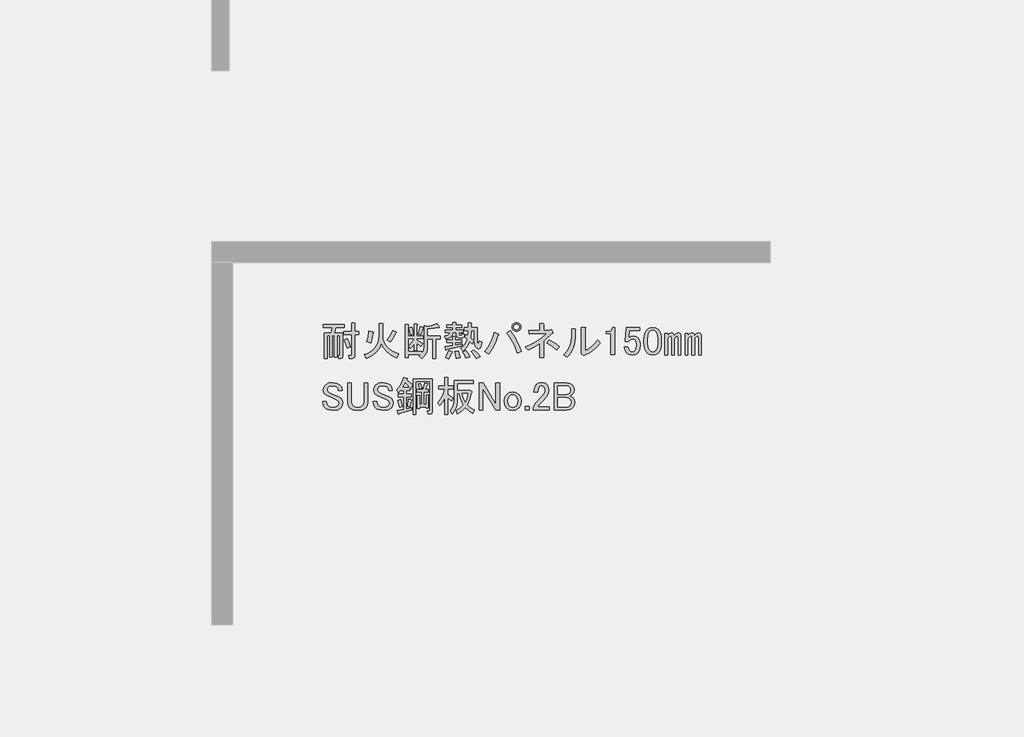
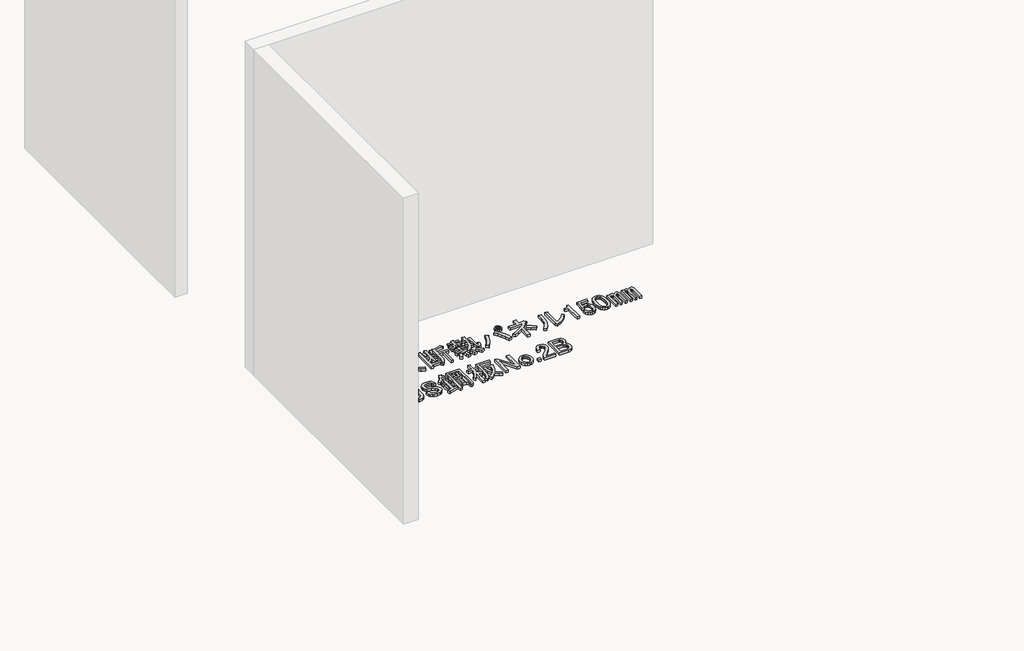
# One storey, part 112 of 117: 1 proxy.
"""IFC4 building model written with IfcOpenShell, lengths in millimetres."""

import ifcopenshell
import ifcopenshell.guid

model = None  # the IFC model being written
_history = None  # IfcOwnerHistory: only IFC2X3 demands one
_inside = {}  # id of a spatial element -> (the spatial element, [elements in it])
_under = {}  # id of a project, library or spatial element -> (it, [spatial elements below it])
_declared = {}  # id of a project -> (the project, [libraries it declares])
_typed = {}  # id of a type object -> (the type object, [elements of that type])
_made_of = {}  # id of a material, layer set ... -> (it, [elements and type objects made of it])


def new_model(schema):
    """Start an empty IFC model of exactly this schema.

    Asked for "IFC4X3", IfcOpenShell would pick the latest addendum, in which some entities
    have other attributes; the version numbers below select the first issue.
    IFC2X3 requires an IfcOwnerHistory on every rooted entity: one is made here for all.
    """
    global model, _history
    if schema == "IFC4X3":
        model = ifcopenshell.file(schema_version=(4, 3, 0, 0))
    else:
        model = ifcopenshell.file(schema=schema)
    _inside.clear()
    _under.clear()
    _declared.clear()
    _typed.clear()
    _made_of.clear()
    _history = None
    if model.schema == "IFC2X3":
        org = make("IfcOrganization", Name="unknown")
        user = make(
            "IfcPersonAndOrganization",
            ThePerson=make("IfcPerson", FamilyName="unknown"),
            TheOrganization=org,
        )
        app = make(
            "IfcApplication",
            ApplicationDeveloper=org,
            Version="unknown",
            ApplicationFullName="unknown",
            ApplicationIdentifier="unknown",
        )
        _history = make(
            "IfcOwnerHistory",
            OwningUser=user,
            OwningApplication=app,
            ChangeAction="ADDED",
            CreationDate=0,
        )
    return model


def make(cls, **values):
    """One entity of the class cls with the attributes given. An attribute that is None is left unset."""
    return model.create_entity(
        cls, **{name: value for name, value in values.items() if value is not None}
    )


def rooted(cls, **values):
    """An entity with a GlobalId (a new one), such as an element, a storey or a relation."""
    return make(cls, GlobalId=ifcopenshell.guid.new(), OwnerHistory=_history, **values)


def si_unit(unit_type, name, prefix=None):
    """IfcSIUnit, for example si_unit("LENGTHUNIT", "METRE", prefix="MILLI")."""
    return make("IfcSIUnit", UnitType=unit_type, Prefix=prefix, Name=name)


def assignment(units):
    """IfcUnitAssignment: the units of a project."""
    return None if units is None else make("IfcUnitAssignment", Units=units)


def point(xyz):
    """IfcCartesianPoint."""
    return None if xyz is None else make("IfcCartesianPoint", Coordinates=xyz)


def direction(xyz):
    """IfcDirection."""
    return None if xyz is None else make("IfcDirection", DirectionRatios=xyz)


def frame(location, z_axis=None, x_axis=None):
    """IfcAxis2Placement3D, a coordinate frame: its origin and axes. An axis left out is left unset."""
    return make(
        "IfcAxis2Placement3D",
        Location=point(location),
        Axis=direction(z_axis),
        RefDirection=direction(x_axis),
    )


def origin():
    """The frame at (0, 0, 0) with its axes left unset."""
    return frame((0.0, 0.0, 0.0))


def place(relative_to, where):
    """IfcLocalPlacement: puts the frame where relative to a parent placement (None: the world)."""
    return make(
        "IfcLocalPlacement", PlacementRelTo=relative_to, RelativePlacement=where
    )


def context(
    kind, dimensions, precision=None, world=None, true_north=None, identifier=None
):
    """IfcGeometricRepresentationContext, for example the 3D "Model" context."""
    return make(
        "IfcGeometricRepresentationContext",
        ContextIdentifier=identifier,
        ContextType=kind,
        CoordinateSpaceDimension=dimensions,
        Precision=precision,
        WorldCoordinateSystem=world,
        TrueNorth=true_north,
    )


def project(units=None, contexts=None):
    """IfcProject with its units and contexts."""
    return rooted(
        "IfcProject",
        Name="project",
        RepresentationContexts=contexts,
        UnitsInContext=assignment(units),
    )


def spatial(cls, under=None, at=None, **own):
    """A site, building, storey or space (cls), placed at a placement, below another one or the project."""
    s = rooted(cls, ObjectPlacement=at, **own)
    if under is not None:
        _under.setdefault(under.id(), (under, []))[1].append(s)
    return s


def polyline(points):
    """IfcPolyline through the points."""
    return make("IfcPolyline", Points=[point(p) for p in points])


def outline(outer, holes=None, kind="AREA"):
    """IfcArbitraryClosedProfileDef: a profile drawn as a closed curve; with holes, ...WithVoids."""
    if holes is None:
        return make("IfcArbitraryClosedProfileDef", ProfileType=kind, OuterCurve=outer)
    return make(
        "IfcArbitraryProfileDefWithVoids",
        ProfileType=kind,
        OuterCurve=outer,
        InnerCurves=holes,
    )


def extrude(swept, where, along, depth):
    """IfcExtrudedAreaSolid: the profile swept, set in the frame where, extruded along a direction by depth."""
    return make(
        "IfcExtrudedAreaSolid",
        SweptArea=swept,
        Position=where,
        ExtrudedDirection=direction(along),
        Depth=depth,
    )


def shape(context_of_items, identifier, shape_type, items):
    """IfcShapeRepresentation: the items that make up one representation, for example the "Body"."""
    return make(
        "IfcShapeRepresentation",
        ContextOfItems=context_of_items,
        RepresentationIdentifier=identifier,
        RepresentationType=shape_type,
        Items=items,
    )


def made_of(thing, what):
    """Note that an element or type object is made of a material, layer set ...; save() writes the relation."""
    if what is not None:
        _made_of.setdefault(what.id(), (what, []))[1].append(thing)
    return thing


def element(
    cls,
    number,
    at=None,
    inside=None,
    cuts=None,
    type_object=None,
    material=None,
    context=None,
    identifier="Body",
    shape_type=None,
    held_by="IfcProductDefinitionShape",
    body=None,
    shapes=None,
    **own,
):
    """One element of the class cls, such as IfcWall. Its Tag is "e" and its number.

    at: its placement. inside: the storey or other place that contains it. cuts: it is an
    opening in that element (IfcRelVoidsElement). A single representation is given by context,
    identifier, shape_type and body (its items); several are given by shapes. held_by: the class
    of the entity that holds the representations. save() writes the other relations.
    """
    e = rooted(cls, Tag="e%d" % number, ObjectPlacement=at, **own)
    if body is not None:
        shapes = [shape(context, identifier, shape_type, body)]
    if shapes is not None:
        e.Representation = make(held_by, Representations=shapes)
    if inside is not None:
        _inside.setdefault(inside.id(), (inside, []))[1].append(e)
    if cuts is not None:
        rooted(
            "IfcRelVoidsElement", RelatingBuildingElement=cuts, RelatedOpeningElement=e
        )
    if type_object is not None:
        _typed.setdefault(type_object.id(), (type_object, []))[1].append(e)
    return made_of(e, material)


def aggregate(whole, parts):
    """IfcRelAggregates: a whole, such as a stair, and the parts it consists of."""
    return rooted("IfcRelAggregates", RelatingObject=whole, RelatedObjects=parts)


def save(model, path):
    """Write the relations noted so far, then the file.

    IfcRelAggregates (storeys below a building ...), IfcRelContainedInSpatialStructure (elements
    in a storey), IfcRelDefinesByType, IfcRelAssociatesMaterial and IfcRelDeclares: one each for
    every whole, place, type object, material and project.
    """
    for whole, parts in _under.values():
        aggregate(whole, parts)
    for where, things in _inside.values():
        rooted(
            "IfcRelContainedInSpatialStructure",
            RelatedElements=things,
            RelatingStructure=where,
        )
    for kind, things in _typed.values():
        rooted("IfcRelDefinesByType", RelatedObjects=things, RelatingType=kind)
    for what, things in _made_of.values():
        rooted("IfcRelAssociatesMaterial", RelatedObjects=things, RelatingMaterial=what)
    for by, libraries in _declared.values():
        rooted("IfcRelDeclares", RelatingContext=by, RelatedDefinitions=libraries)
    model.write(path)


model = new_model("IFC4")

# Units and contexts
model_context = context("Model", 3, world=origin())
ifc_project = project(units=[si_unit("LENGTHUNIT", "METRE", prefix="MILLI")], contexts=[model_context])

# Site, building, storey
site = spatial("IfcSite", under=ifc_project)
building = spatial("IfcBuilding", under=site)
storey = spatial("IfcBuildingStorey", under=building, Name="レベル 1", Elevation=500.0)

# Proxy
placement = place(None, origin())
element("IfcBuildingElementProxy", 1, Name="200㎜\u3000MS Pゴシック", ObjectType="200㎜\u3000MS Pゴシック", at=placement, inside=storey, context=model_context, shape_type="SweptSolid", body=[
    extrude(outline(polyline([(64978.5674486, 3229.3142262), (64971.0959694, 3259.7748726), (64960.176115, 3289.0860605), (64982.0158237, 3297.132269), (64994.372501, 3267.5337164), (65001.5566157, 3238.5098931), (64978.5674486, 3229.3142262)])), frame((0.0, 0.0, 500.0), z_axis=(0.0, 0.0, 1.0), x_axis=(1.0, 0.0, 0.0)), (0.0, 0.0, 1.0), 25.0),
    extrude(outline(polyline([(64887.7602388, 3320.121436), (64871.6678219, 3320.121436), (64871.6678219, 3164.9445585), (64852.1270299, 3164.9445585), (64852.1270299, 3320.121436), (64833.7356963, 3320.121436), (64833.7356963, 3152.3005167), (64814.1949043, 3152.3005167), (64814.1949043, 3338.5127697), (64865.9205301, 3338.5127697), (64871.6678219, 3377.5943537), (64804.9992375, 3377.5943537), (64804.9992375, 3399.4340623), (64960.176115, 3399.4340623), (64960.176115, 3377.5943537), (64895.8064473, 3377.5943537), (64885.4613221, 3338.5127697), (64946.3826148, 3338.5127697), (64946.3826148, 3170.6918503), (64942.3595106, 3158.6225376), (64930.2901979, 3154.5994334), (64919.9450727, 3154.5994334), (64915.3472393, 3176.439142), (64922.2439894, 3176.439142), (64925.6923645, 3177.5886004), (64926.8418228, 3181.0369755), (64926.8418228, 3320.121436), (64907.3010308, 3320.121436), (64907.3010308, 3164.9445585), (64887.7602388, 3164.9445585), (64887.7602388, 3320.121436)])), frame((0.0, 0.0, 500.0), z_axis=(0.0, 0.0, 1.0), x_axis=(1.0, 0.0, 0.0)), (0.0, 0.0, 1.0), 25.0),
    extrude(outline(polyline([(64956.72774, 3325.8687278), (64956.72774, 3347.7084365), (65013.0511992, 3347.7084365), (65013.0511992, 3409.7791875), (65034.8909079, 3409.7791875), (65039.7761059, 3407.4802708), (65036.0403663, 3402.8824374), (65036.0403663, 3347.7084365), (65064.7768251, 3347.7084365), (65064.7768251, 3325.8687278), (65036.0403663, 3325.8687278), (65036.0403663, 3172.990767), (65031.4425328, 3159.1972668), (65017.6490326, 3154.5994334), (64994.6598656, 3154.5994334), (64991.2114905, 3176.439142), (65008.4533658, 3176.439142), (65011.9017409, 3177.5886004), (65013.0511992, 3181.0369755), (65013.0511992, 3325.8687278), (64956.72774, 3325.8687278)])), frame((0.0, 0.0, 500.0), z_axis=(0.0, 0.0, 1.0), x_axis=(1.0, 0.0, 0.0)), (0.0, 0.0, 1.0), 25.0),
    extrude(outline(polyline([(65226.8504527, 3261.4990601), (65210.9017181, 3226.6561038), (65187.1941395, 3196.8420278), (65155.7277172, 3172.0568321), (65116.5024509, 3152.3005167), (65102.7089507, 3181.0369755), (65128.032955, 3190.71757), (65149.9804254, 3202.5174784), (65168.5513619, 3216.4367006), (65183.7457645, 3232.4752367), (65195.5636332, 3250.6330866), (65204.0049679, 3270.9102504), (65209.0697688, 3293.3067279), (65210.7580358, 3317.8225193), (65210.7580358, 3408.6297292), (65237.1955779, 3406.3308125), (65240.6439529, 3402.8824374), (65237.1955779, 3397.1351456), (65237.1955779, 3317.8225193), (65238.9916065, 3296.377937), (65244.3796926, 3276.2983364), (65253.3598359, 3257.5837176), (65265.9320367, 3240.2340806), (65282.0962947, 3224.2494254), (65301.8526102, 3209.629752), (65352.1414131, 3184.4853505), (65340.6468295, 3155.7488917), (65301.2060398, 3175.2896837), (65269.0930471, 3199.4283091), (65244.3078514, 3228.1647679), (65226.8504527, 3261.4990601)])), frame((0.0, 0.0, 500.0), z_axis=(0.0, 0.0, 1.0), x_axis=(1.0, 0.0, 0.0)), (0.0, 0.0, 1.0), 25.0),
    extrude(outline(polyline([(65330.3017044, 3337.3633113), (65310.1861832, 3297.9943628), (65293.5190371, 3271.8441853), (65270.5298701, 3286.7871438), (65290.3580266, 3318.3972485), (65308.4619957, 3358.0535617), (65333.7500794, 3345.4095198), (65336.3363607, 3341.6737801), (65330.3017044, 3337.3633113)])), frame((0.0, 0.0, 500.0), z_axis=(0.0, 0.0, 1.0), x_axis=(1.0, 0.0, 0.0)), (0.0, 0.0, 1.0), 25.0),
    extrude(outline(polyline([(65122.2497427, 3276.4420187), (65134.0316908, 3310.6384046), (65137.1927012, 3353.4557283), (65165.92916, 3346.5589781), (65170.5269934, 3342.8232385), (65165.92916, 3338.5127697), (65162.1934204, 3304.0290191), (65150.9862015, 3267.2463519), (65122.2497427, 3276.4420187)])), frame((0.0, 0.0, 500.0), z_axis=(0.0, 0.0, 1.0), x_axis=(1.0, 0.0, 0.0)), (0.0, 0.0, 1.0), 25.0),
    extrude(outline(polyline([(65647.5522095, 3381.0427287), (65645.828022, 3376.4448953), (65638.3565427, 3378.743812), (65561.3428331, 3366.0997701), (65561.3428331, 3316.673061), (65653.2995013, 3316.673061), (65653.2995013, 3294.8333523), (65622.2641258, 3294.8333523), (65622.2641258, 3154.5994334), (65599.2749588, 3154.5994334), (65599.2749588, 3294.8333523), (65561.3428331, 3294.8333523), (65561.3428331, 3245.4066432), (65558.7565518, 3217.6041193), (65550.997708, 3192.8189236), (65538.0663015, 3171.051056), (65519.9623325, 3152.3005167), (65502.7204572, 3171.8413086), (65513.0655823, 3181.0369755), (65423.4078309, 3181.0369755), (65423.4078309, 3159.1972668), (65400.4186638, 3159.1972668), (65400.4186638, 3398.284604), (65422.2583725, 3398.284604), (65427.1435705, 3395.9856873), (65423.4078309, 3391.3878539), (65423.4078309, 3315.5236026), (65465.9377899, 3315.5236026), (65465.9377899, 3402.8824374), (65484.3291235, 3402.8824374), (65489.2143215, 3400.5835207), (65485.4785819, 3395.9856873), (65485.4785819, 3315.5236026), (65529.1579993, 3315.5236026), (65529.1579993, 3297.132269), (65485.4785819, 3297.132269), (65485.4785819, 3287.9366022), (65525.7096242, 3261.4990601), (65511.916124, 3239.6593514), (65485.4785819, 3266.0968935), (65485.4785819, 3213.2218093), (65465.9377899, 3213.2218093), (65465.9377899, 3261.4990601), (65452.7190189, 3241.6709035), (65438.3507895, 3225.8658512), (65425.7067476, 3244.2571848), (65447.5464563, 3268.3958102), (65464.7883316, 3297.132269), (65423.4078309, 3297.132269), (65423.4078309, 3202.8766841), (65521.1117908, 3202.8766841), (65521.1117908, 3189.0831839), (65534.0431973, 3213.2218093), (65538.3536661, 3246.5561015), (65538.3536661, 3391.3878539), (65560.1933748, 3385.6405621), (65596.4013129, 3393.1120414), (65626.8619592, 3406.3308125), (65647.5522095, 3381.0427287)])), frame((0.0, 0.0, 500.0), z_axis=(0.0, 0.0, 1.0), x_axis=(1.0, 0.0, 0.0)), (0.0, 0.0, 1.0), 25.0),
    extrude(outline(polyline([(65493.5247904, 3332.7654779), (65510.7666656, 3385.6405621), (65531.456916, 3379.8932704), (65533.1811035, 3376.7322599), (65529.1579993, 3374.1459786), (65511.916124, 3325.8687278), (65493.5247904, 3332.7654779)])), frame((0.0, 0.0, 500.0), z_axis=(0.0, 0.0, 1.0), x_axis=(1.0, 0.0, 0.0)), (0.0, 0.0, 1.0), 25.0),
    extrude(outline(polyline([(65439.5002478, 3324.7192695), (65426.8562059, 3375.2954369), (65446.3969979, 3382.1921871), (65454.1558418, 3358.0535617), (65459.0410398, 3331.6160196), (65439.5002478, 3324.7192695)])), frame((0.0, 0.0, 500.0), z_axis=(0.0, 0.0, 1.0), x_axis=(1.0, 0.0, 0.0)), (0.0, 0.0, 1.0), 25.0),
    extrude(outline(polyline([(65770.5442532, 3340.8116864), (65745.2561695, 3340.8116864), (65740.6583361, 3323.3542877), (65730.3132109, 3310.0636755), (65714.220794, 3300.9398498), (65692.3810853, 3295.9828107), (65687.7832519, 3315.5236026), (65713.0713356, 3324.1445403), (65720.5428149, 3331.4723373), (65724.5659191, 3340.8116864), (65688.9327102, 3340.8116864), (65688.9327102, 3359.20302), (65742.9572528, 3359.20302), (65742.9572528, 3376.4448953), (65699.2778354, 3376.4448953), (65699.2778354, 3394.8362289), (65742.9572528, 3394.8362289), (65742.9572528, 3413.2275626), (65764.7969614, 3413.2275626), (65769.6821594, 3410.9286459), (65765.9464198, 3406.3308125), (65765.9464198, 3394.8362289), (65808.4763788, 3394.8362289), (65808.4763788, 3376.4448953), (65765.9464198, 3376.4448953), (65765.9464198, 3359.20302), (65818.821504, 3359.20302), (65818.821504, 3340.8116864), (65790.0850452, 3340.8116864), (65790.0850452, 3328.1676445), (65791.5218681, 3322.9950819), (65795.832337, 3321.2708944), (65806.1774621, 3321.2708944), (65809.9132018, 3324.4319049), (65809.6258372, 3333.9149363), (65829.1666292, 3331.6160196), (65826.2929833, 3310.0636755), (65820.9767384, 3304.6755894), (65813.0742122, 3302.8795608), (65788.9355868, 3302.8795608), (65775.1420866, 3307.7647588), (65770.5442532, 3322.4203528), (65770.5442532, 3340.8116864)])), frame((0.0, 0.0, 500.0), z_axis=(0.0, 0.0, 1.0), x_axis=(1.0, 0.0, 0.0)), (0.0, 0.0, 1.0), 25.0),
    extrude(outline(polyline([(65901.5825053, 3358.0535617), (65879.7427966, 3358.0535617), (65875.1449632, 3300.5806441), (65894.6857552, 3282.1893104), (65884.3406301, 3260.3496017), (65868.2482131, 3276.4420187), (65848.9947857, 3238.7972576), (65818.821504, 3206.3250592), (65801.5796287, 3227.0153095), (65816.6662696, 3238.9409399), (65829.7413583, 3254.0275808), (65840.804895, 3272.2752321), (65849.8568795, 3293.683894), (65832.6150042, 3308.6268525), (65840.6612127, 3325.8687278), (65854.4547129, 3315.5236026), (65856.7536296, 3358.0535617), (65829.1666292, 3358.0535617), (65829.1666292, 3376.4448953), (65856.7536296, 3376.4448953), (65856.7536296, 3410.9286459), (65878.5933383, 3410.9286459), (65883.4785363, 3408.6297292), (65879.7427966, 3404.0318957), (65879.7427966, 3376.4448953), (65921.1232973, 3376.4448953), (65921.1232973, 3279.8903937), (65924.5716724, 3255.7517683), (65927.804524, 3253.7402162), (65930.6063287, 3256.9012267), (65934.9167975, 3278.7409354), (65954.4575895, 3271.8441853), (65949.9315973, 3245.0474374), (65942.1009122, 3229.0268616), (65930.9655345, 3223.7824579), (65916.5254639, 3229.3142262), (65909.9879195, 3236.6420232), (65905.318245, 3248.280289), (65901.5825053, 3284.4882271), (65901.5825053, 3358.0535617)])), frame((0.0, 0.0, 500.0), z_axis=(0.0, 0.0, 1.0), x_axis=(1.0, 0.0, 0.0)), (0.0, 0.0, 1.0), 25.0),
    extrude(outline(polyline([(65700.4272937, 3218.9691011), (65698.4157416, 3214.0839031), (65694.680002, 3215.520726), (65688.9327102, 3239.6593514), (65744.1067111, 3247.7055599), (65744.1067111, 3270.6947269), (65700.4272937, 3270.6947269), (65700.4272937, 3289.0860605), (65744.1067111, 3289.0860605), (65744.1067111, 3312.0752276), (65762.4980447, 3312.0752276), (65767.3832427, 3309.7763109), (65763.6475031, 3305.1784775), (65763.6475031, 3289.0860605), (65808.4763788, 3289.0860605), (65808.4763788, 3270.6947269), (65763.6475031, 3270.6947269), (65763.6475031, 3251.1539349), (65814.2236706, 3260.3496017), (65814.2236706, 3244.2571848), (65700.4272937, 3218.9691011)])), frame((0.0, 0.0, 500.0), z_axis=(0.0, 0.0, 1.0), x_axis=(1.0, 0.0, 0.0)), (0.0, 0.0, 1.0), 25.0),
    extrude(outline(polyline([(65898.1341303, 3214.3712677), (65922.8474849, 3193.1062881), (65941.8135477, 3168.3929336), (65915.3760056, 3153.449975), (65896.1225782, 3183.0485276), (65877.4438799, 3202.8766841), (65898.1341303, 3214.3712677)])), frame((0.0, 0.0, 500.0), z_axis=(0.0, 0.0, 1.0), x_axis=(1.0, 0.0, 0.0)), (0.0, 0.0, 1.0), 25.0),
    extrude(outline(polyline([(65839.5117543, 3155.7488917), (65831.1781813, 3180.4622463), (65817.6720456, 3201.7272258), (65838.362296, 3209.7734343), (65855.3168067, 3188.2210902), (65867.0987548, 3164.9445585), (65839.5117543, 3155.7488917)])), frame((0.0, 0.0, 500.0), z_axis=(0.0, 0.0, 1.0), x_axis=(1.0, 0.0, 0.0)), (0.0, 0.0, 1.0), 25.0),
    extrude(outline(polyline([(65738.3594193, 3204.0261425), (65741.8077944, 3199.1409445), (65736.0605026, 3195.979934), (65726.2901067, 3170.4044857), (65715.3702523, 3151.1510583), (65692.3810853, 3162.6456418), (65705.0251271, 3186.209538), (65715.3702523, 3213.2218093), (65738.3594193, 3204.0261425)])), frame((0.0, 0.0, 500.0), z_axis=(0.0, 0.0, 1.0), x_axis=(1.0, 0.0, 0.0)), (0.0, 0.0, 1.0), 25.0),
    extrude(outline(polyline([(65783.1882951, 3208.6239759), (65793.2460557, 3181.32434), (65798.1312537, 3159.1972668), (65769.3947949, 3153.449975), (65766.8085136, 3175.0023191), (65759.0496697, 3205.1756008), (65783.1882951, 3208.6239759)])), frame((0.0, 0.0, 500.0), z_axis=(0.0, 0.0, 1.0), x_axis=(1.0, 0.0, 0.0)), (0.0, 0.0, 1.0), 25.0),
    extrude(outline(polyline([(66206.1889686, 3350.0073532), (66193.5449268, 3352.3062699), (66183.1998016, 3359.20302), (66176.3030515, 3369.5481452), (66174.0041348, 3382.1921871), (66176.3030515, 3394.8362289), (66183.1998016, 3405.1813541), (66193.5449268, 3412.0781042), (66206.1889686, 3414.3770209), (66218.8330105, 3412.0781042), (66229.1781357, 3405.1813541), (66236.0748858, 3394.8362289), (66238.3738025, 3382.1921871), (66236.0748858, 3369.5481452), (66229.1781357, 3359.20302), (66218.8330105, 3352.3062699), (66206.1889686, 3350.0073532)]), holes=[polyline([(66206.1889686, 3361.5019367), (66214.5225417, 3362.9387597), (66221.1319272, 3367.2492285), (66225.442396, 3373.858614), (66226.879219, 3382.1921871), (66225.442396, 3390.5257601), (66221.1319272, 3397.1351456), (66214.5225417, 3401.4456145), (66206.1889686, 3402.8824374), (66197.8553956, 3401.4456145), (66191.2460101, 3397.1351456), (66186.9355412, 3390.5257601), (66185.4987183, 3382.1921871), (66186.9355412, 3373.858614), (66191.2460101, 3367.2492285), (66197.8553956, 3362.9387597), (66206.1889686, 3361.5019367)])]), frame((0.0, 0.0, 500.0), z_axis=(0.0, 0.0, 1.0), x_axis=(1.0, 0.0, 0.0)), (0.0, 0.0, 1.0), 25.0),
    extrude(outline(polyline([(66160.2106345, 3355.754645), (66186.8637001, 3319.0438188), (66209.3499791, 3281.3272167), (66227.6694716, 3242.6048384), (66241.8221775, 3202.8766841), (66210.786802, 3192.531559), (66195.3409554, 3235.6362472), (66177.7398744, 3274.143102), (66157.983559, 3308.0521234), (66136.0720092, 3337.3633113), (66160.2106345, 3355.754645)])), frame((0.0, 0.0, 500.0), z_axis=(0.0, 0.0, 1.0), x_axis=(1.0, 0.0, 0.0)), (0.0, 0.0, 1.0), 25.0),
    extrude(outline(polyline([(66072.8517998, 3329.3171029), (66076.874904, 3323.8571757), (66070.5528831, 3318.9719777), (66058.6272527, 3283.5542922), (66043.5406118, 3249.717112), (66025.2929605, 3217.460437), (66003.8842987, 3186.7842672), (65977.4467566, 3204.0261425), (66000.6514471, 3235.4925649), (66019.689351, 3268.9705394), (66034.5604684, 3304.460066), (66045.2647993, 3341.9611447), (66072.8517998, 3329.3171029)])), frame((0.0, 0.0, 500.0), z_axis=(0.0, 0.0, 1.0), x_axis=(1.0, 0.0, 0.0)), (0.0, 0.0, 1.0), 25.0),
    extrude(outline(polyline([(66449.8741393, 3360.3524784), (66456.7708894, 3362.6513951), (66469.4149312, 3345.4095198), (66470.5643896, 3339.3748634), (66464.8170978, 3337.3633113), (66401.5968885, 3281.0398521), (66401.5968885, 3160.3467251), (66375.1593464, 3160.3467251), (66375.1593464, 3262.6485184), (66334.9283041, 3238.5098931), (66290.0994283, 3216.6701844), (66270.5586363, 3237.3604347), (66316.1059235, 3256.8293855), (66357.3427419, 3279.6030291), (66394.2690915, 3305.6813655), (66426.8849722, 3335.0643946), (66296.9961784, 3329.3171029), (66293.5478034, 3354.6051866), (66375.1593464, 3356.9041033), (66375.1593464, 3408.6297292), (66398.1485134, 3408.6297292), (66404.1831698, 3405.1813541), (66401.5968885, 3399.4340623), (66401.5968885, 3358.0535617), (66449.8741393, 3360.3524784)])), frame((0.0, 0.0, 500.0), z_axis=(0.0, 0.0, 1.0), x_axis=(1.0, 0.0, 0.0)), (0.0, 0.0, 1.0), 25.0),
    extrude(outline(polyline([(66495.8524733, 3216.6701844), (66458.7824415, 3245.9813723), (66425.7355139, 3267.2463519), (66442.9773892, 3289.0860605), (66481.7716085, 3265.8095289), (66515.3932653, 3239.6593514), (66495.8524733, 3216.6701844)])), frame((0.0, 0.0, 500.0), z_axis=(0.0, 0.0, 1.0), x_axis=(1.0, 0.0, 0.0)), (0.0, 0.0, 1.0), 25.0),
    extrude(outline(polyline([(66702.8469334, 3209.7734343), (66727.6321291, 3221.9864292), (66751.4115488, 3239.0846222), (66774.1851924, 3261.0680132), (66795.9530599, 3287.9366022), (66812.0454768, 3266.0968935), (66788.7689452, 3238.2943696), (66762.6187677, 3214.6586322), (66733.5949443, 3195.1896814), (66701.697475, 3179.8875171), (66692.5018082, 3175.2896837), (66674.1104746, 3189.0831839), (66676.4093913, 3194.8304757), (66676.4093913, 3379.8932704), (66700.5480167, 3379.8932704), (66706.2953084, 3376.4448953), (66702.8469334, 3370.6976035), (66702.8469334, 3209.7734343)])), frame((0.0, 0.0, 500.0), z_axis=(0.0, 0.0, 1.0), x_axis=(1.0, 0.0, 0.0)), (0.0, 0.0, 1.0), 25.0),
    extrude(outline(polyline([(66548.8195142, 3178.7380587), (66573.9639157, 3207.9774056), (66591.9242024, 3240.5214452), (66602.7003745, 3276.3701775), (66606.2924318, 3315.5236026), (66606.2924318, 3367.2492285), (66630.4310572, 3367.2492285), (66636.178349, 3363.8008534), (66632.7299739, 3358.0535617), (66632.7299739, 3316.673061), (66628.9223931, 3270.9102504), (66617.4996507, 3230.17632), (66598.4617468, 3194.4712699), (66571.8086812, 3163.7951002), (66548.8195142, 3178.7380587)])), frame((0.0, 0.0, 500.0), z_axis=(0.0, 0.0, 1.0), x_axis=(1.0, 0.0, 0.0)), (0.0, 0.0, 1.0), 25.0),
    extrude(outline(polyline([(66891.3581031, 3356.9041033), (66899.4043116, 3367.8239577), (66902.8526866, 3379.8932704), (66916.6461869, 3379.8932704), (66916.6461869, 3181.0369755), (66890.2086448, 3181.0369755), (66890.2086448, 3333.9149363), (66855.7248942, 3333.9149363), (66855.7248942, 3347.7084365), (66866.0700194, 3347.7084365), (66880.4382488, 3350.0073532), (66891.3581031, 3356.9041033)])), frame((0.0, 0.0, 500.0), z_axis=(0.0, 0.0, 1.0), x_axis=(1.0, 0.0, 0.0)), (0.0, 0.0, 1.0), 25.0),
    extrude(outline(polyline([(67000.5566466, 3376.4448953), (67099.4100648, 3376.4448953), (67099.4100648, 3354.6051866), (67022.3963552, 3354.6051866), (67022.3963552, 3351.1568116), (67018.9479802, 3308.6268525), (67017.7985218, 3301.7301024), (67033.3162096, 3312.0752276), (67049.9833557, 3315.5236026), (67070.9609706, 3311.787863), (67087.9154813, 3300.5806441), (67099.984794, 3280.7524875), (67104.0078982, 3253.4528516), (67098.8353357, 3218.9691011), (67092.3696324, 3205.1756008), (67083.3176479, 3193.6810173), (67065.2136789, 3181.6117046), (67043.0866056, 3177.5886004), (67022.1089907, 3181.32434), (67005.15448, 3192.531559), (66993.0851673, 3211.2102572), (66986.7631463, 3237.3604347), (67013.2006884, 3237.3604347), (67017.2237927, 3218.6817365), (67024.695272, 3206.3250592), (67032.4541158, 3201.1524966), (67041.9371472, 3199.4283091), (67054.2938245, 3201.4398612), (67063.7768559, 3207.4745175), (67073.2598873, 3224.4290282), (67076.4208978, 3250.0044766), (67073.8346165, 3274.143102), (67066.0757726, 3289.0860605), (67058.6042933, 3294.2586231), (67049.9833557, 3295.9828107), (67037.0519492, 3293.3965294), (67025.8447303, 3285.6376855), (67016.6490635, 3275.2925603), (66993.6598964, 3275.2925603), (66994.8093548, 3283.3387688), (67000.5566466, 3371.8470619), (67000.5566466, 3376.4448953)])), frame((0.0, 0.0, 500.0), z_axis=(0.0, 0.0, 1.0), x_axis=(1.0, 0.0, 0.0)), (0.0, 0.0, 1.0), 25.0),
    extrude(outline(polyline([(67129.295982, 3290.2355189), (67130.7328049, 3313.7994151), (67135.0432737, 3333.9149363), (67142.2273884, 3350.5820824), (67152.285149, 3363.8008534), (67170.3891181, 3375.8701661), (67192.5161914, 3379.8932704), (67214.6432646, 3375.8701661), (67232.7472337, 3363.8008534), (67242.8049943, 3350.5820824), (67249.989109, 3333.9149363), (67254.2995778, 3313.7994151), (67255.7364007, 3290.2355189), (67255.7364007, 3267.2463519), (67254.2995778, 3244.1853437), (67249.989109, 3224.4290282), (67242.8049943, 3207.9774056), (67232.7472337, 3194.8304757), (67214.6432646, 3182.761163), (67192.5161914, 3178.7380587), (67170.3891181, 3182.761163), (67152.285149, 3194.8304757), (67142.2273884, 3207.9774056), (67135.0432737, 3224.4290282), (67130.7328049, 3244.1853437), (67129.295982, 3267.2463519), (67129.295982, 3290.2355189)]), holes=[polyline([(67192.5161914, 3358.0535617), (67181.596337, 3355.754645), (67171.825941, 3348.8578948), (67165.2883966, 3339.7340692), (67160.6187221, 3327.3055507), (67156.8829824, 3292.5344356), (67156.8829824, 3266.0968935), (67160.9060867, 3231.9005075), (67165.934967, 3219.3283068), (67172.9753994, 3209.7734343), (67182.4584308, 3202.8766841), (67192.5161914, 3200.5777674), (67203.4360457, 3202.8766841), (67213.2064417, 3209.7734343), (67219.7439861, 3218.8972599), (67224.4136606, 3231.3257784), (67228.1494003, 3266.0968935), (67228.1494003, 3292.5344356), (67224.4136606, 3327.3055507), (67219.7439861, 3339.7340692), (67213.2064417, 3348.8578948), (67203.4360457, 3355.754645), (67192.5161914, 3358.0535617)])]), frame((0.0, 0.0, 500.0), z_axis=(0.0, 0.0, 1.0), x_axis=(1.0, 0.0, 0.0)), (0.0, 0.0, 1.0), 25.0),
    extrude(outline(polyline([(67522.4107384, 3339.662228), (67530.7443114, 3338.2254051), (67537.353697, 3333.9149363), (67542.5262595, 3325.2939986), (67544.2504471, 3313.2246859), (67544.2504471, 3178.7380587), (67524.7096551, 3178.7380587), (67524.7096551, 3302.8795608), (67522.1233738, 3312.3625922), (67514.3645299, 3315.5236026), (67504.0194048, 3310.9257692), (67497.9847484, 3302.3048316), (67495.9731963, 3292.5344356), (67495.9731963, 3178.7380587), (67476.4324043, 3178.7380587), (67476.4324043, 3302.8795608), (67473.846123, 3312.3625922), (67466.0872791, 3315.5236026), (67455.742154, 3310.9257692), (67449.7074976, 3302.3048316), (67447.6959455, 3292.5344356), (67447.6959455, 3178.7380587), (67428.1551535, 3178.7380587), (67428.1551535, 3336.213853), (67447.6959455, 3336.213853), (67447.6959455, 3318.9719777), (67459.7652582, 3334.4896654), (67472.9840292, 3339.662228), (67482.1796961, 3338.2254051), (67489.0764462, 3333.9149363), (67495.9731963, 3320.121436), (67508.9046028, 3334.77703), (67522.4107384, 3339.662228)])), frame((0.0, 0.0, 500.0), z_axis=(0.0, 0.0, 1.0), x_axis=(1.0, 0.0, 0.0)), (0.0, 0.0, 1.0), 25.0),
    extrude(outline(polyline([(67300.5652764, 3178.7380587), (67281.0244845, 3178.7380587), (67281.0244845, 3336.213853), (67300.5652764, 3336.213853), (67300.5652764, 3318.9719777), (67312.6345891, 3334.4896654), (67325.8533602, 3339.662228), (67335.049027, 3338.2254051), (67341.9457771, 3333.9149363), (67348.8425272, 3320.121436), (67361.7739337, 3334.77703), (67375.2800693, 3339.662228), (67383.6136424, 3338.2254051), (67390.2230279, 3333.9149363), (67395.3955905, 3325.2939986), (67397.119778, 3313.2246859), (67397.119778, 3178.7380587), (67377.578986, 3178.7380587), (67377.578986, 3302.8795608), (67374.9927047, 3312.3625922), (67367.2338609, 3315.5236026), (67356.8887357, 3310.9257692), (67350.8540793, 3302.3048316), (67348.8425272, 3292.5344356), (67348.8425272, 3178.7380587), (67329.3017352, 3178.7380587), (67329.3017352, 3302.8795608), (67326.715454, 3312.3625922), (67318.9566101, 3315.5236026), (67308.6114849, 3310.9257692), (67302.5768286, 3302.3048316), (67300.5652764, 3292.5344356), (67300.5652764, 3178.7380587)])), frame((0.0, 0.0, 500.0), z_axis=(0.0, 0.0, 1.0), x_axis=(1.0, 0.0, 0.0)), (0.0, 0.0, 1.0), 25.0),
    extrude(outline(polyline([(64807.2981542, 2924.7192695), (64811.3212584, 2945.1221552), (64823.3905711, 2962.6513951), (64843.7934569, 2974.7207078), (64872.8172803, 2978.743812), (64904.1400204, 2974.1459786), (64926.8418228, 2960.3524784), (64938.9111355, 2942.8232385), (64942.9342397, 2922.4203528), (64916.4966976, 2922.4203528), (64914.1977809, 2935.0643946), (64907.3010308, 2945.4095198), (64894.0822598, 2953.1683637), (64875.116197, 2955.754645), (64854.7133112, 2953.4557283), (64841.7819048, 2946.5589781), (64835.7472484, 2937.9380405), (64833.7356963, 2928.1676445), (64838.3335297, 2913.2246859), (64859.02378, 2901.7301024), (64918.7956143, 2875.2925603), (64936.0374896, 2863.7979768), (64945.520521, 2850.0044766), (64948.6815315, 2833.9120596), (64944.6584273, 2812.6470801), (64932.5891146, 2794.8304757), (64922.6031951, 2787.2871552), (64909.8873121, 2781.8990692), (64876.2656553, 2777.5886004), (64842.6439985, 2782.761163), (64829.0660217, 2789.2268662), (64817.6432794, 2798.2788507), (64806.4360604, 2816.6701844), (64802.7003208, 2841.9582681), (64829.1378629, 2841.9582681), (64831.4367796, 2824.1416637), (64838.3335297, 2812.072351), (64854.4259466, 2802.5893196), (64877.4151137, 2799.4283091), (64898.3927286, 2802.301955), (64913.0483226, 2810.9228926), (64919.9450727, 2820.1185594), (64922.2439894, 2829.3142262), (64920.5198019, 2838.7972576), (64915.3472393, 2846.5561015), (64896.9559057, 2858.050685), (64867.0699885, 2871.8441853), (64833.7356963, 2886.7871438), (64817.6432794, 2897.132269), (64809.8844355, 2909.2015817), (64807.2981542, 2924.7192695)])), frame((0.0, 0.0, 500.0), z_axis=(0.0, 0.0, 1.0), x_axis=(1.0, 0.0, 0.0)), (0.0, 0.0, 1.0), 25.0),
    extrude(outline(polyline([(64982.7054987, 2976.4448953), (65009.1430408, 2976.4448953), (65009.1430408, 2838.5098931), (65011.7293221, 2823.8542991), (65019.488166, 2812.072351), (65035.0058537, 2802.5893196), (65056.2708332, 2799.4283091), (65077.5358128, 2802.5893196), (65093.0535005, 2812.072351), (65100.8123444, 2823.8542991), (65103.3986257, 2838.5098931), (65103.3986257, 2976.4448953), (65129.8361678, 2976.4448953), (65129.8361678, 2837.3604347), (65125.8130635, 2814.3712677), (65113.7437508, 2795.979934), (65103.2549434, 2787.9337256), (65090.1798546, 2782.1864338), (65056.2708332, 2777.5886004), (65022.3618119, 2782.1864338), (65009.2867231, 2787.9337256), (64998.7979156, 2795.979934), (64986.7286029, 2814.3712677), (64982.7054987, 2837.3604347), (64982.7054987, 2976.4448953)])), frame((0.0, 0.0, 500.0), z_axis=(0.0, 0.0, 1.0), x_axis=(1.0, 0.0, 0.0)), (0.0, 0.0, 1.0), 25.0),
    extrude(outline(polyline([(65172.1822135, 2924.7192695), (65176.2053177, 2945.1221552), (65188.2746304, 2962.6513951), (65208.6775161, 2974.7207078), (65237.7013395, 2978.743812), (65269.0240796, 2974.1459786), (65291.7258821, 2960.3524784), (65303.7951948, 2942.8232385), (65307.818299, 2922.4203528), (65281.3807569, 2922.4203528), (65279.0818402, 2935.0643946), (65272.1850901, 2945.4095198), (65258.966319, 2953.1683637), (65240.0002562, 2955.754645), (65219.5973705, 2953.4557283), (65206.665964, 2946.5589781), (65200.6313077, 2937.9380405), (65198.6197556, 2928.1676445), (65203.217589, 2913.2246859), (65223.9078393, 2901.7301024), (65283.6796736, 2875.2925603), (65300.9215489, 2863.7979768), (65310.4045803, 2850.0044766), (65313.5655908, 2833.9120596), (65309.5424865, 2812.6470801), (65297.4731738, 2794.8304757), (65287.4872544, 2787.2871552), (65274.7713714, 2781.8990692), (65241.1497146, 2777.5886004), (65207.5280578, 2782.761163), (65193.950081, 2789.2268662), (65182.5273386, 2798.2788507), (65171.3201197, 2816.6701844), (65167.5843801, 2841.9582681), (65194.0219222, 2841.9582681), (65196.3208389, 2824.1416637), (65203.217589, 2812.072351), (65219.3100059, 2802.5893196), (65242.2991729, 2799.4283091), (65263.2767879, 2802.301955), (65277.9323819, 2810.9228926), (65284.829132, 2820.1185594), (65287.1280487, 2829.3142262), (65285.4038611, 2838.7972576), (65280.2312986, 2846.5561015), (65261.8399649, 2858.050685), (65231.9540478, 2871.8441853), (65198.6197556, 2886.7871438), (65182.5273386, 2897.132269), (65174.7684948, 2909.2015817), (65172.1822135, 2924.7192695)])), frame((0.0, 0.0, 500.0), z_axis=(0.0, 0.0, 1.0), x_axis=(1.0, 0.0, 0.0)), (0.0, 0.0, 1.0), 25.0),
    extrude(outline(polyline([(65441.8451429, 2937.3633113), (65400.4646422, 2981.0427287), (65378.6249335, 2941.9611447), (65433.7989344, 2941.9611447), (65433.7989344, 2923.5698111), (65407.3613923, 2923.5698111), (65407.3613923, 2894.8333523), (65445.2935179, 2894.8333523), (65445.2935179, 2876.4420187), (65407.3613923, 2876.4420187), (65407.3613923, 2789.0831839), (65446.4429763, 2799.4283091), (65448.741893, 2779.8875171), (65356.7852248, 2754.5994334), (65354.4863081, 2748.8521416), (65349.8884747, 2752.3005167), (65342.9917246, 2775.2896837), (65387.8206003, 2784.4853505), (65387.8206003, 2876.4420187), (65349.8884747, 2876.4420187), (65349.8884747, 2894.8333523), (65387.8206003, 2894.8333523), (65387.8206003, 2923.5698111), (65365.9808916, 2923.5698111), (65351.037933, 2905.1784775), (65338.3938912, 2925.8687278), (65366.5556208, 2963.5134888), (65391.2689754, 3014.3770209), (65413.1086841, 3008.6297292), (65416.5570591, 3004.8939895), (65410.8097674, 3002.8824374), (65409.660309, 2999.4340623), (65454.4891847, 2961.5019367), (65441.8451429, 2937.3633113)])), frame((0.0, 0.0, 500.0), z_axis=(0.0, 0.0, 1.0), x_axis=(1.0, 0.0, 0.0)), (0.0, 0.0, 1.0), 25.0),
    extrude(outline(polyline([(65509.6631856, 2974.1459786), (65516.8473003, 2958.9156554), (65522.3072275, 2938.5127697), (65505.0653522, 2932.7654779), (65493.5707687, 2969.5481452), (65509.6631856, 2974.1459786)])), frame((0.0, 0.0, 500.0), z_axis=(0.0, 0.0, 1.0), x_axis=(1.0, 0.0, 0.0)), (0.0, 0.0, 1.0), 25.0),
    extrude(outline(polyline([(65562.5382698, 2972.9965202), (65565.1245511, 2969.5481452), (65559.0898948, 2966.0997701), (65546.4458529, 2928.1676445), (65567.1361032, 2928.1676445), (65567.1361032, 2909.7763109), (65536.1007277, 2909.7763109), (65536.1007277, 2821.2680178), (65551.0436863, 2821.2680178), (65551.0436863, 2889.0860605), (65567.1361032, 2889.0860605), (65567.1361032, 2794.8304757), (65551.0436863, 2794.8304757), (65551.0436863, 2802.8766841), (65505.0653522, 2802.8766841), (65505.0653522, 2790.2326423), (65488.9729353, 2790.2326423), (65488.9729353, 2886.7871438), (65505.0653522, 2886.7871438), (65505.0653522, 2821.2680178), (65520.0083108, 2821.2680178), (65520.0083108, 2909.7763109), (65484.3751019, 2909.7763109), (65484.3751019, 2928.1676445), (65530.353436, 2928.1676445), (65540.6985611, 2977.5943537), (65562.5382698, 2972.9965202)])), frame((0.0, 0.0, 500.0), z_axis=(0.0, 0.0, 1.0), x_axis=(1.0, 0.0, 0.0)), (0.0, 0.0, 1.0), 25.0),
    extrude(outline(polyline([(65456.7881014, 3006.3308125), (65597.0220204, 3006.3308125), (65597.0220204, 2766.0940169), (65593.2862807, 2754.8867979), (65582.0790618, 2751.1510583), (65565.9866449, 2751.1510583), (65561.3888115, 2772.990767), (65572.883395, 2772.990767), (65576.33177, 2774.1402253), (65577.4812284, 2777.5886004), (65577.4812284, 2987.9394788), (65476.3288934, 2987.9394788), (65476.3288934, 2748.8521416), (65456.7881014, 2748.8521416), (65456.7881014, 3006.3308125)])), frame((0.0, 0.0, 500.0), z_axis=(0.0, 0.0, 1.0), x_axis=(1.0, 0.0, 0.0)), (0.0, 0.0, 1.0), 25.0),
    extrude(outline(polyline([(65445.2935179, 2858.050685), (65447.8797992, 2854.8896746), (65444.1440596, 2852.3033933), (65436.0978511, 2805.1756008), (65417.7065175, 2807.4745175), (65423.4538092, 2861.4990601), (65445.2935179, 2858.050685)])), frame((0.0, 0.0, 500.0), z_axis=(0.0, 0.0, 1.0), x_axis=(1.0, 0.0, 0.0)), (0.0, 0.0, 1.0), 25.0),
    extrude(outline(polyline([(65368.2798083, 2856.9012267), (65379.7743918, 2805.1756008), (65359.0841415, 2799.4283091), (65347.589558, 2851.1539349), (65368.2798083, 2856.9012267)])), frame((0.0, 0.0, 500.0), z_axis=(0.0, 0.0, 1.0), x_axis=(1.0, 0.0, 0.0)), (0.0, 0.0, 1.0), 25.0),
    extrude(outline(polyline([(65768.2913148, 2777.5886004), (65797.0277736, 2794.8304757), (65818.8674823, 2816.6701844), (65801.0508779, 2858.6254142), (65791.2804819, 2899.4311857), (65778.63644, 2899.4311857), (65778.63644, 2875.2925603), (65776.193841, 2833.5528539), (65768.866044, 2799.1409445), (65756.653049, 2772.0568321), (65739.554856, 2752.3005167), (65725.7613558, 2775.2896837), (65738.8364446, 2792.6752413), (65748.1757937, 2814.9459968), (65753.7794031, 2842.1019504), (65755.647273, 2874.143102), (65755.647273, 2994.8362289), (65892.4328169, 2994.8362289), (65892.4328169, 2972.9965202), (65778.63644, 2972.9965202), (65778.63644, 2921.2708944), (65857.9490663, 2921.2708944), (65863.6963581, 2927.0181862), (65883.23715, 2913.2246859), (65884.673973, 2909.4889463), (65879.788775, 2905.1784775), (65867.4320977, 2858.6254142), (65848.7533995, 2817.8196427), (65867.7194623, 2799.4283091), (65899.329567, 2781.0369755), (65890.1339002, 2756.8983501), (65862.2595351, 2772.990767), (65833.8104409, 2798.2788507), (65809.3844509, 2773.8528608), (65777.4869817, 2753.449975), (65768.2913148, 2777.5886004)]), holes=[polyline([(65813.1201906, 2899.4311857), (65821.166399, 2866.3842581), (65833.8104409, 2838.5098931), (65846.4544828, 2864.6600706), (65854.5006912, 2899.4311857), (65813.1201906, 2899.4311857)])]), frame((0.0, 0.0, 500.0), z_axis=(0.0, 0.0, 1.0), x_axis=(1.0, 0.0, 0.0)), (0.0, 0.0, 1.0), 25.0),
    extrude(outline(polyline([(65685.5303135, 2748.8521416), (65685.5303135, 2868.3958102), (65667.713709, 2834.1994242), (65648.7476462, 2812.072351), (65637.2530627, 2832.7626013), (65654.494938, 2855.4644037), (65668.2884382, 2879.8903937), (65678.6335634, 2906.0405712), (65685.5303135, 2933.9149363), (65644.1498128, 2933.9149363), (65644.1498128, 2955.754645), (65685.5303135, 2955.754645), (65685.5303135, 3015.5264793), (65707.3700222, 3015.5264793), (65712.2552202, 3013.2275626), (65708.5194805, 3008.6297292), (65708.5194805, 2955.754645), (65746.4516061, 2955.754645), (65746.4516061, 2933.9149363), (65708.5194805, 2933.9149363), (65708.5194805, 2893.683894), (65746.4516061, 2867.2463519), (65736.106481, 2844.2571848), (65708.5194805, 2867.2463519), (65708.5194805, 2748.8521416), (65685.5303135, 2748.8521416)])), frame((0.0, 0.0, 500.0), z_axis=(0.0, 0.0, 1.0), x_axis=(1.0, 0.0, 0.0)), (0.0, 0.0, 1.0), 25.0),
    extrude(outline(polyline([(65936.1122342, 2976.4448953), (65964.848693, 2976.4448953), (66056.8053612, 2821.2680178), (66056.8053612, 2976.4448953), (66083.2429033, 2976.4448953), (66083.2429033, 2779.8875171), (66054.5064445, 2779.8875171), (65962.5497763, 2935.0643946), (65962.5497763, 2779.8875171), (65936.1122342, 2779.8875171), (65936.1122342, 2976.4448953)])), frame((0.0, 0.0, 500.0), z_axis=(0.0, 0.0, 1.0), x_axis=(1.0, 0.0, 0.0)), (0.0, 0.0, 1.0), 25.0),
    extrude(outline(polyline([(66116.3932822, 2844.2571848), (66121.2784802, 2871.5568207), (66135.9340742, 2893.683894), (66155.1875015, 2906.6153004), (66178.4640332, 2910.9257692), (66201.7405648, 2906.6153004), (66220.9939922, 2893.683894), (66235.6495862, 2871.5568207), (66240.5347842, 2844.2571848), (66235.6495862, 2816.957549), (66220.9939922, 2794.8304757), (66201.7405648, 2781.8990692), (66178.4640332, 2777.5886004), (66155.1875015, 2781.8990692), (66135.9340742, 2794.8304757), (66121.2784802, 2816.957549), (66116.3932822, 2844.2571848)]), holes=[polyline([(66178.4640332, 2890.2355189), (66165.8199913, 2887.9366022), (66155.4748661, 2881.0398521), (66145.129741, 2864.9474352), (66141.6813659, 2844.2571848), (66144.8423764, 2823.8542991), (66154.3254078, 2808.6239759), (66165.5326267, 2800.865132), (66178.4640332, 2798.2788507), (66191.3954396, 2800.865132), (66202.6026586, 2808.6239759), (66212.08569, 2823.8542991), (66215.2467004, 2844.2571848), (66211.7983254, 2864.9474352), (66201.4532002, 2881.0398521), (66191.1080751, 2887.9366022), (66178.4640332, 2890.2355189)])]), frame((0.0, 0.0, 500.0), z_axis=(0.0, 0.0, 1.0), x_axis=(1.0, 0.0, 0.0)), (0.0, 0.0, 1.0), 25.0),
    extrude(outline(polyline([(66271.064398, 2805.1756008), (66297.5019401, 2805.1756008), (66297.5019401, 2779.8875171), (66271.064398, 2779.8875171), (66271.064398, 2805.1756008)])), frame((0.0, 0.0, 500.0), z_axis=(0.0, 0.0, 1.0), x_axis=(1.0, 0.0, 0.0)), (0.0, 0.0, 1.0), 25.0),
    extrude(outline(polyline([(66332.2155823, 2909.7763109), (66336.8134158, 2941.099051), (66350.606916, 2963.8008534), (66366.9866975, 2975.0080724), (66386.2401249, 2978.743812), (66408.9419273, 2975.0080724), (66426.4711672, 2963.8008534), (66437.6783861, 2947.1337073), (66441.4141258, 2927.0181862), (66437.103657, 2901.1553732), (66424.1722505, 2878.7409354), (66390.8379583, 2840.8088098), (66372.4466247, 2820.1185594), (66358.6531244, 2801.7272258), (66444.8625008, 2801.7272258), (66444.8625008, 2779.8875171), (66327.6177489, 2779.8875171), (66327.6177489, 2799.4283091), (66333.6524053, 2813.2218093), (66347.1585409, 2831.6131429), (66394.2863334, 2883.3387688), (66408.9419273, 2904.6037483), (66413.8271253, 2927.0181862), (66411.5282086, 2939.662228), (66404.6314585, 2950.0073532), (66396.8726147, 2955.1799158), (66387.3895832, 2956.9041033), (66378.7686456, 2955.1799158), (66371.2971663, 2950.0073532), (66361.8141349, 2933.6275717), (66358.6531244, 2909.7763109), (66332.2155823, 2909.7763109)])), frame((0.0, 0.0, 500.0), z_axis=(0.0, 0.0, 1.0), x_axis=(1.0, 0.0, 0.0)), (0.0, 0.0, 1.0), 25.0),
    extrude(outline(polyline([(66479.3462514, 2976.4448953), (66571.3029196, 2976.4448953), (66592.2805345, 2972.7091557), (66609.2350452, 2961.5019367), (66619.5801704, 2945.4095198), (66623.0285454, 2924.7192695), (66619.8675349, 2907.7647588), (66610.3845035, 2893.683894), (66593.1426283, 2883.3387688), (66614.982337, 2870.6947269), (66625.3274621, 2855.1770392), (66628.7758372, 2836.2109763), (66624.4653684, 2812.9344447), (66611.5339619, 2793.6810173), (66594.2920866, 2783.3358922), (66570.1534612, 2779.8875171), (66479.3462514, 2779.8875171), (66479.3462514, 2976.4448953)]), holes=[polyline([(66505.7837935, 2954.6051866), (66505.7837935, 2893.683894), (66567.8545445, 2893.683894), (66578.4870343, 2895.6954461), (66587.3953365, 2901.7301024), (66594.2920866, 2912.3625922), (66596.5910033, 2925.8687278), (66594.2920866, 2937.6506759), (66587.3953365, 2947.7084365), (66579.6364926, 2952.8809991), (66570.1534612, 2954.6051866), (66505.7837935, 2954.6051866)]), polyline([(66505.7837935, 2871.8441853), (66505.7837935, 2801.7272258), (66564.4061695, 2801.7272258), (66579.6364926, 2804.0261425), (66590.8437116, 2810.9228926), (66598.6025554, 2822.4174761), (66601.1888367, 2836.2109763), (66598.88992, 2850.5792057), (66591.9931699, 2861.4990601), (66579.9238572, 2869.257904), (66564.4061695, 2871.8441853), (66505.7837935, 2871.8441853)])]), frame((0.0, 0.0, 500.0), z_axis=(0.0, 0.0, 1.0), x_axis=(1.0, 0.0, 0.0)), (0.0, 0.0, 1.0), 25.0),
])

save(model, "model.ifc")
